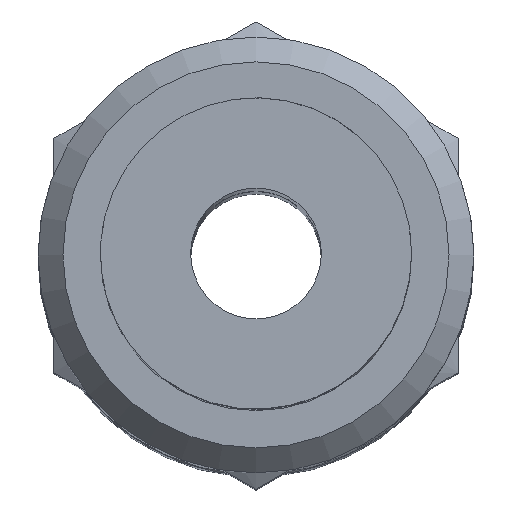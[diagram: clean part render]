
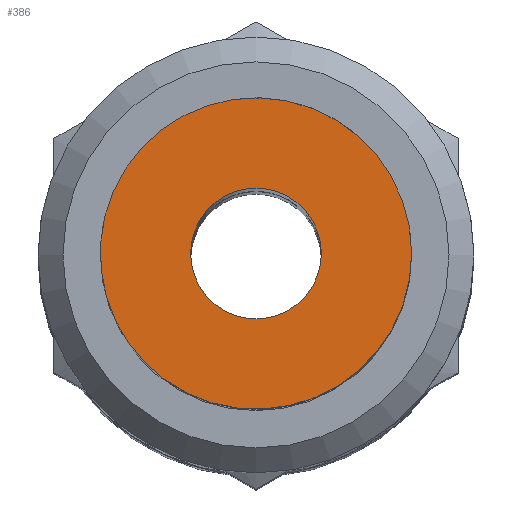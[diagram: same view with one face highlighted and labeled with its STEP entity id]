
A CAD part, top view. The second image highlights one B-rep face of the part: STEP entity #386.
In plain terms, the highlighted planar face has unit normal (0, 0, 1).
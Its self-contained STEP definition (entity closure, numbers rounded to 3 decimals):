
#386 = ADVANCED_FACE( '', ( #557, #558 ), #559, .F. );
#557 = FACE_BOUND( '', #704, .T. );
#558 = FACE_OUTER_BOUND( '', #705, .T. );
#559 = PLANE( '', #706 );
#704 = EDGE_LOOP( '', ( #902 ) );
#705 = EDGE_LOOP( '', ( #903 ) );
#706 = AXIS2_PLACEMENT_3D( '', #904, #905, #906 );
#902 = ORIENTED_EDGE( '', *, *, #1325, .F. );
#903 = ORIENTED_EDGE( '', *, *, #1315, .F. );
#904 = CARTESIAN_POINT( '', ( 0., 0., 56. ) );
#905 = DIRECTION( '', ( 0., 0., -1. ) );
#906 = DIRECTION( '', ( -1., 0., 0. ) );
#1315 = EDGE_CURVE( '', #1465, #1465, #1466, .T. );
#1325 = EDGE_CURVE( '', #1481, #1481, #1482, .T. );
#1465 = VERTEX_POINT( '', #1631 );
#1466 = CIRCLE( '', #1632, 5. );
#1481 = VERTEX_POINT( '', #1651 );
#1482 = CIRCLE( '', #1652, 2.1 );
#1631 = CARTESIAN_POINT( '', ( 5., 0., 56. ) );
#1632 = AXIS2_PLACEMENT_3D( '', #1981, #1982, #1983 );
#1651 = CARTESIAN_POINT( '', ( 0., 2.1, 56. ) );
#1652 = AXIS2_PLACEMENT_3D( '', #2003, #2004, #2005 );
#1981 = CARTESIAN_POINT( '', ( 0., 0., 56. ) );
#1982 = DIRECTION( '', ( 0., 0., -1. ) );
#1983 = DIRECTION( '', ( 1., 0., 0. ) );
#2003 = CARTESIAN_POINT( '', ( 0., 0., 56. ) );
#2004 = DIRECTION( '', ( 0., 0., 1. ) );
#2005 = DIRECTION( '', ( 0., 1., 0. ) );
